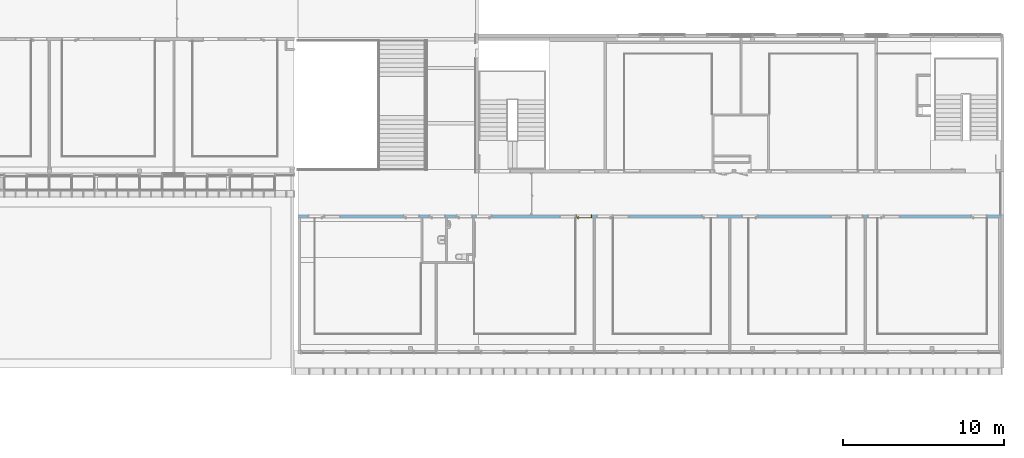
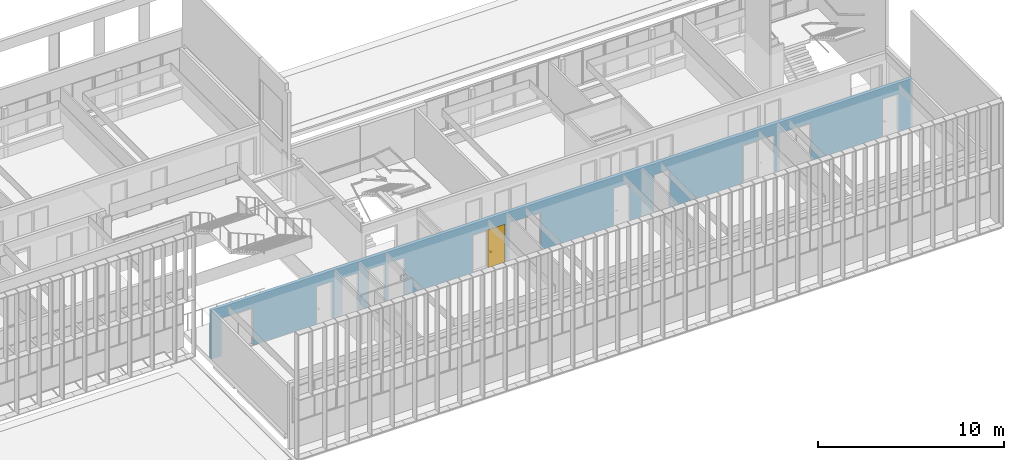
# One storey, part 72 of 106: 1 door, 18 openings, plus 1 element that does not belong to this part.
"""IFC2X3 building model written with IfcOpenShell, lengths in centimetres."""

from ifc_helpers import new_model, entity, si_unit, converted_unit, derived_unit, direction, frame, frame_2d, origin, place, context, subcontext, project, spatial, polyline, rectangle, extrude, clip, bounded_halfspace, faceted_brep, source, transform, mapped, material, material_list, layer, layer_set, layer_usage, type_object, type_shapes, element, fill, save


model = new_model("IFC2X3")

# Units and contexts
model_context = context("Model", 3, precision=0.001, world=origin(), true_north=direction((6.12303176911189e-17, 1.0)))
body_context = subcontext(model_context, "Body", "Model", "MODEL_VIEW")
ifc_project = project(units=[si_unit("LENGTHUNIT", "METRE", prefix="CENTI"), si_unit("AREAUNIT", "SQUARE_METRE"), si_unit("VOLUMEUNIT", "CUBIC_METRE"), converted_unit("PLANEANGLEUNIT", "DEGREE", entity("IfcRatioMeasure", 0.0174532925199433), si_unit("PLANEANGLEUNIT", "RADIAN"), dimensions=[0, 0, 0, 0, 0, 0, 0]), si_unit("MASSUNIT", "GRAM", prefix="KILO"), derived_unit("MASSDENSITYUNIT", [(si_unit("MASSUNIT", "GRAM", prefix="KILO"), 1), (si_unit("LENGTHUNIT", "METRE"), -3)]), si_unit("TIMEUNIT", "SECOND"), si_unit("FREQUENCYUNIT", "HERTZ"), si_unit("THERMODYNAMICTEMPERATUREUNIT", "DEGREE_CELSIUS"), derived_unit("THERMALTRANSMITTANCEUNIT", [(si_unit("MASSUNIT", "GRAM", prefix="KILO"), 1), (si_unit("THERMODYNAMICTEMPERATUREUNIT", "KELVIN"), -1), (si_unit("TIMEUNIT", "SECOND"), -3)]), derived_unit("VOLUMETRICFLOWRATEUNIT", [(si_unit("LENGTHUNIT", "METRE"), 3), (si_unit("TIMEUNIT", "SECOND"), -1)]), si_unit("ELECTRICCURRENTUNIT", "AMPERE"), si_unit("ELECTRICVOLTAGEUNIT", "VOLT"), si_unit("POWERUNIT", "WATT"), si_unit("FORCEUNIT", "NEWTON", prefix="KILO"), si_unit("ILLUMINANCEUNIT", "LUX"), si_unit("LUMINOUSFLUXUNIT", "LUMEN"), si_unit("LUMINOUSINTENSITYUNIT", "CANDELA"), derived_unit("USERDEFINED", [(si_unit("MASSUNIT", "GRAM", prefix="KILO"), -1), (si_unit("LENGTHUNIT", "METRE"), -2), (si_unit("TIMEUNIT", "SECOND"), 3), (si_unit("LUMINOUSFLUXUNIT", "LUMEN"), 1)]), derived_unit("LINEARVELOCITYUNIT", [(si_unit("LENGTHUNIT", "METRE"), 1), (si_unit("TIMEUNIT", "SECOND"), -1)]), si_unit("PRESSUREUNIT", "PASCAL"), derived_unit("USERDEFINED", [(si_unit("LENGTHUNIT", "METRE"), -2), (si_unit("MASSUNIT", "GRAM", prefix="KILO"), 1), (si_unit("TIMEUNIT", "SECOND"), -2)])], contexts=[model_context])

# Site, building, storey
site_placement = place(None, frame((-2781.94577612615, 7442.24238424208, 0.0)))
site = spatial("IfcSite", under=ifc_project, at=site_placement, Name="Default", CompositionType="ELEMENT")
building_placement = place(site_placement, origin())
building = spatial("IfcBuilding", under=site, at=building_placement, CompositionType="ELEMENT")
storey_placement = place(building_placement, frame((0.0, 0.0, 422.0)))
storey = spatial("IfcBuildingStorey", under=building, at=storey_placement, Name="Toiture - Cuisine", CompositionType="ELEMENT", Elevation=421.999999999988)

# Wall, openings, door
ifc_material_1 = material(Name="01 - Maçonnerie")
ifc_layer = layer(ifc_material_1, 20.0)
ifc_layer_set = layer_set([ifc_layer], Name="Mur de base:04 - Structure - béton - 20cm")
ifc_layer_usage = layer_usage(ifc_layer_set, "AXIS2", "NEGATIVE", 10.0)
wall_type = type_object("IfcWallType", Name="Mur de base:04 - Structure - béton - 20cm", PredefinedType="STANDARD", material=ifc_layer_set)
wall_placement = place(building_placement, frame((-4767.99987760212, -2200.15656731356, 422.0)))
wall = element("IfcWallStandardCase", 1, at=wall_placement, inside=storey, type_object=wall_type, material=ifc_layer_usage, Name="Mur de base:04 - Structure - béton - 20cm", ObjectType="Mur de base:04 - Structure - béton - 20cm", context=body_context, shape_type="Clipping", body=[
    clip(extrude(rectangle(XDim=4357.99999476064, YDim=19.9999999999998, at=frame_2d((2178.99999738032, -6.30606677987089e-14), x_axis=(-1.0, 0.0))), origin(), (0.0, 0.0, 1.0), 321.0), bounded_halfspace(frame((0.0, 10.0, 321.0), z_axis=(0.0, 0.0, -1.0), x_axis=(0.0, 1.0, 0.0)), True, frame((0.0, 10.0, 321.0)), polyline([(0.0, 0.0), (0.0, -20.0), (15.2999999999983, -20.0), (103.799999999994, -20.0), (105.799999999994, -20.0), (763.799999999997, -20.0), (773.799999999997, -20.0), (915.699994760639, -20.0), (925.699994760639, -20.0), (1082.69999476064, -20.0), (1092.69999476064, -20.0), (1720.69999476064, -20.0), (1722.69999476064, -20.0), (1832.69999476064, -20.0), (1842.69999476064, -20.0), (1952.69999476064, -20.0), (1954.69999476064, -20.0), (2560.69999476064, -20.0), (2562.69999476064, -20.0), (2672.69999476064, -20.0), (2682.69999476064, -20.0), (2792.69999476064, -20.0), (2794.69999476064, -20.0), (3400.69999476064, -20.0), (3402.69999476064, -20.0), (3512.69999476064, -20.0), (3522.69999476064, -20.0), (3592.69999476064, -20.0), (3594.69999476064, -20.0), (4270.69999476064, -20.0), (4272.69999476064, -20.0), (4342.69999476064, -20.0), (4358.0, -20.0), (4358.0, 0.0), (4356.0, 0.0), (1451.49999791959, 0.0), (1441.49999791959, 0.0), (1120.0, 0.0), (0.0, 0.0)]))),
])
opening_1_placement = place(wall_placement, origin())
element("IfcOpeningElement", 2, at=opening_1_placement, cuts=wall, Name="Mur de base:04 - Structure - béton - 20cm", ObjectType="Opening", context=body_context, shape_type="SweptSolid", body=[
    extrude(rectangle(XDim=270.0, YDim=20.0, at=frame_2d((0.0, 4.2632564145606e-14), x_axis=(0.0, 1.0))), frame((4368.0, 10.0, 135.0), z_axis=(0.0, 1.0, 0.0), x_axis=(1.0, 0.0, 0.0)), (0.0, 0.0, 1.0), 260.077533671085),
])
opening_2_placement = place(wall_placement, frame((4272.69999476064, 10.0, 0.0)))
element("IfcOpeningElement", 3, at=opening_2_placement, cuts=wall, Name="Int. Simple:PV (0.93m x 2.50m):1", ObjectType="Opening", context=body_context, shape_type="SweptSolid", body=[
    extrude(rectangle(XDim=248.500000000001, YDim=99.9999999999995, at=frame_2d((124.250000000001, 50.0), x_axis=(1.0, 0.0))), frame((0.0, 0.0, 0.0), z_axis=(0.0, -1.0, 0.0), x_axis=(0.0, 0.0, 1.0)), (0.0, 0.0, 1.0), 20.0),
])
opening_3_placement = place(wall_placement, frame((3632.69999476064, 10.0, 0.0)))
element("IfcOpeningElement", 4, at=opening_3_placement, cuts=wall, Name="Int. Simple:PV (0.93m x 2.50m):1", ObjectType="Opening", context=body_context, shape_type="SweptSolid", body=[
    extrude(rectangle(XDim=248.500000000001, YDim=99.9999999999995, at=frame_2d((124.250000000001, 49.9999999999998), x_axis=(1.0, 0.0))), frame((0.0, 0.0, 0.0), z_axis=(0.0, -1.0, 0.0), x_axis=(0.0, 0.0, 1.0)), (0.0, 0.0, 1.0), 20.0),
])
opening_4_placement = place(wall_placement, frame((3502.69999476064, 10.0, 0.0)))
element("IfcOpeningElement", 5, at=opening_4_placement, cuts=wall, Name="Int. Simple:PV (0.93m x 2.50m):1", ObjectType="Opening", context=body_context, shape_type="SweptSolid", body=[
    extrude(rectangle(XDim=248.500000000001, YDim=99.9999999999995, at=frame_2d((124.250000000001, 49.9999999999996), x_axis=(1.0, 0.0))), frame((0.0, 0.0, 0.0), z_axis=(0.0, -1.0, 0.0), x_axis=(0.0, 0.0, 1.0)), (0.0, 0.0, 1.0), 20.0),
])
opening_5_placement = place(wall_placement, frame((2852.69999476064, 10.0, 0.0)))
element("IfcOpeningElement", 6, at=opening_5_placement, cuts=wall, Name="Int. Simple:PV (0.93m x 2.50m):1", ObjectType="Opening", context=body_context, shape_type="SweptSolid", body=[
    extrude(rectangle(XDim=248.500000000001, YDim=99.9999999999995, at=frame_2d((124.250000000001, 49.9999999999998), x_axis=(1.0, 0.0))), frame((0.0, 0.0, 0.0), z_axis=(0.0, -1.0, 0.0), x_axis=(0.0, 0.0, 1.0)), (0.0, 0.0, 1.0), 20.0),
])
opening_6_placement = place(wall_placement, frame((2602.69999476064, 10.0, 0.0)))
element("IfcOpeningElement", 7, at=opening_6_placement, cuts=wall, Name="Int. Simple:PV (0.93m x 2.50m):1", ObjectType="Opening", context=body_context, shape_type="SweptSolid", body=[
    extrude(rectangle(XDim=248.500000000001, YDim=99.9999999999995, at=frame_2d((124.250000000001, 49.9999999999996), x_axis=(1.0, 0.0))), frame((0.0, 0.0, 0.0), z_axis=(0.0, -1.0, 0.0), x_axis=(0.0, 0.0, 1.0)), (0.0, 0.0, 1.0), 20.0),
])
opening_7_placement = place(wall_placement, frame((1952.69999476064, 10.0, 0.0)))
element("IfcOpeningElement", 8, at=opening_7_placement, cuts=wall, Name="Int. Simple:PV (0.93m x 2.50m):1", ObjectType="Opening", context=body_context, shape_type="SweptSolid", body=[
    extrude(rectangle(XDim=248.500000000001, YDim=99.9999999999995, at=frame_2d((124.250000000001, 49.9999999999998), x_axis=(1.0, 0.0))), frame((0.0, 0.0, 0.0), z_axis=(0.0, -1.0, 0.0), x_axis=(0.0, 0.0, 1.0)), (0.0, 0.0, 1.0), 20.0),
])
opening_8_placement = place(wall_placement, frame((1822.69999476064, 10.0, 0.0)))
opening_8 = element("IfcOpeningElement", 9, at=opening_8_placement, cuts=wall, Name="Int. Simple:PV (0.93m x 2.50m):1", ObjectType="Opening", context=body_context, shape_type="SweptSolid", body=[
    extrude(rectangle(XDim=248.500000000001, YDim=99.9999999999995, at=frame_2d((124.250000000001, 49.9999999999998), x_axis=(1.0, 0.0))), frame((0.0, 0.0, 0.0), z_axis=(0.0, -1.0, 0.0), x_axis=(0.0, 0.0, 1.0)), (0.0, 0.0, 1.0), 20.0),
])
opening_9_placement = place(wall_placement, frame((1202.69999476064, 10.0, 0.0)))
element("IfcOpeningElement", 10, at=opening_9_placement, cuts=wall, Name="Int. Simple:PV (0.93m x 2.50m):1", ObjectType="Opening", context=body_context, shape_type="SweptSolid", body=[
    extrude(rectangle(XDim=248.500000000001, YDim=99.9999999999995, at=frame_2d((124.250000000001, 49.9999999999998), x_axis=(1.0, 0.0))), frame((0.0, 0.0, 0.0), z_axis=(0.0, -1.0, 0.0), x_axis=(0.0, 0.0, 1.0)), (0.0, 0.0, 1.0), 20.0),
])
opening_10_placement = place(wall_placement, frame((1081.19999476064, 10.0, 0.0)))
element("IfcOpeningElement", 11, at=opening_10_placement, cuts=wall, Name="Int. Simple:PP simple (0.93m x 2.50m):1", ObjectType="Opening", context=body_context, shape_type="SweptSolid", body=[
    extrude(rectangle(XDim=248.500000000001, YDim=99.9999999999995, at=frame_2d((124.250000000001, 49.9999999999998), x_axis=(1.0, 0.0))), frame((0.0, 0.0, 0.0), z_axis=(0.0, -1.0, 0.0), x_axis=(0.0, 0.0, 1.0)), (0.0, 0.0, 1.0), 20.0),
])
opening_11_placement = place(wall_placement, frame((753.799999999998, 10.0, 0.0)))
element("IfcOpeningElement", 12, at=opening_11_placement, cuts=wall, Name="Int. Simple:PV (0.93m x 2.50m):1", ObjectType="Opening", context=body_context, shape_type="SweptSolid", body=[
    extrude(rectangle(XDim=248.500000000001, YDim=99.9999999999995, at=frame_2d((124.250000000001, 50.0), x_axis=(1.0, 0.0))), frame((0.0, 0.0, 0.0), z_axis=(0.0, -1.0, 0.0), x_axis=(0.0, 0.0, 1.0)), (0.0, 0.0, 1.0), 20.0),
])
opening_12_placement = place(wall_placement, frame((163.799999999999, 10.0, 0.0)))
element("IfcOpeningElement", 13, at=opening_12_placement, cuts=wall, Name="Int. Simple:PV (0.93m x 2.50m):1", ObjectType="Opening", context=body_context, shape_type="SweptSolid", body=[
    extrude(rectangle(XDim=248.500000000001, YDim=99.9999999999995, at=frame_2d((124.250000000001, 49.9999999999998), x_axis=(1.0, 0.0))), frame((0.0, 0.0, 0.0), z_axis=(0.0, -1.0, 0.0), x_axis=(0.0, 0.0, 1.0)), (0.0, 0.0, 1.0), 20.0),
])
opening_13_placement = place(wall_placement, frame((263.799999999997, 10.0, 0.0)))
element("IfcOpeningElement", 14, at=opening_13_placement, cuts=wall, Name="châssis intérieur vitré:châssis intérieur vitré (h=270) R+1:1", ObjectType="Opening", context=body_context, shape_type="SweptSolid", body=[
    extrude(rectangle(XDim=250.0, YDim=99.9999999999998, at=frame_2d((125.0, 49.9999999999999), x_axis=(1.0, 0.0))), frame((0.0, 0.0, 0.0), z_axis=(0.0, -1.0, 0.0), x_axis=(0.0, 0.0, 1.0)), (0.0, 0.0, 1.0), 20.0),
])
opening_14_placement = place(wall_placement, frame((1722.69999476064, 10.0, 0.0)))
element("IfcOpeningElement", 15, at=opening_14_placement, cuts=wall, Name="châssis intérieur vitré:châssis intérieur vitré (h=270) R+1:1", ObjectType="Opening", context=body_context, shape_type="SweptSolid", body=[
    extrude(rectangle(XDim=250.0, YDim=99.9999999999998, at=frame_2d((125.0, 49.9999999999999), x_axis=(1.0, 0.0))), frame((0.0, 0.0, 0.0), z_axis=(0.0, -1.0, 0.0), x_axis=(0.0, 0.0, 1.0)), (0.0, 0.0, 1.0), 20.0),
])
opening_15_placement = place(wall_placement, frame((2052.69999476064, 10.0, 0.0)))
element("IfcOpeningElement", 16, at=opening_15_placement, cuts=wall, Name="châssis intérieur vitré:châssis intérieur vitré (h=270) R+1:1", ObjectType="Opening", context=body_context, shape_type="SweptSolid", body=[
    extrude(rectangle(XDim=250.0, YDim=99.9999999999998, at=frame_2d((125.0, 49.9999999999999), x_axis=(1.0, 0.0))), frame((0.0, 0.0, 0.0), z_axis=(0.0, -1.0, 0.0), x_axis=(0.0, 0.0, 1.0)), (0.0, 0.0, 1.0), 20.0),
])
opening_16_placement = place(wall_placement, frame((3402.69999476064, 10.0, 0.0)))
element("IfcOpeningElement", 17, at=opening_16_placement, cuts=wall, Name="châssis intérieur vitré:châssis intérieur vitré (h=270) R+1:1", ObjectType="Opening", context=body_context, shape_type="SweptSolid", body=[
    extrude(rectangle(XDim=250.0, YDim=99.9999999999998, at=frame_2d((125.0, 49.9999999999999), x_axis=(1.0, 0.0))), frame((0.0, 0.0, 0.0), z_axis=(0.0, -1.0, 0.0), x_axis=(0.0, 0.0, 1.0)), (0.0, 0.0, 1.0), 20.0),
])
opening_17_placement = place(wall_placement, frame((3732.69999476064, 10.0, 0.0)))
element("IfcOpeningElement", 18, at=opening_17_placement, cuts=wall, Name="châssis intérieur vitré:châssis intérieur vitré (h=270) R+1:1", ObjectType="Opening", context=body_context, shape_type="SweptSolid", body=[
    extrude(rectangle(XDim=250.0, YDim=99.9999999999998, at=frame_2d((125.0, 49.9999999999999), x_axis=(1.0, 0.0))), frame((0.0, 0.0, 0.0), z_axis=(0.0, -1.0, 0.0), x_axis=(0.0, 0.0, 1.0)), (0.0, 0.0, 1.0), 20.0),
])
opening_18_placement = place(wall_placement, frame((914.199994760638, 10.0, 0.0)))
element("IfcOpeningElement", 19, at=opening_18_placement, cuts=wall, Name="Int. Simple:PP simple (0.93m x 2.50m):1", ObjectType="Opening", context=body_context, shape_type="SweptSolid", body=[
    extrude(rectangle(XDim=248.500000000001, YDim=99.9999999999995, at=frame_2d((124.250000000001, 50.0), x_axis=(1.0, 0.0))), frame((0.0, 0.0, 0.0), z_axis=(0.0, -1.0, 0.0), x_axis=(0.0, 0.0, 1.0)), (0.0, 0.0, 1.0), 20.0),
])
ifc_material_2 = material(Name="Finition Peinture - Blanc satiné")
ifc_material_3 = material(Name="Bois - Panneau de porte")
ifc_material_4 = material(Name="Bois - Cadre de porte")
ifc_material_list_1 = material_list([ifc_material_2, ifc_material_3, ifc_material_4])
ifc_material_list_2 = material_list([ifc_material_2, ifc_material_3, ifc_material_4])
door_style = type_object("IfcDoorStyle", Name="PV (0.93m x 2.50m)", ConstructionType="NOTDEFINED", OperationType="SINGLE_SWING_LEFT", ParameterTakesPrecedence=False, Sizeable=False, material=ifc_material_list_2)
shared_shape = source(origin(), body_context, "Body", "Brep", [
    faceted_brep([(10.5352761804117, -0.500000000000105, 86.6003983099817), (11.5000000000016, -0.500000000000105, 87.0), (11.5000000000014, -0.500000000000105, 108.0), (10.5352761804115, -0.500000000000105, 108.399601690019), (9.50000000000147, -0.500000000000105, 108.535898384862), (8.46472381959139, -0.500000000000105, 108.399601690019), (7.50000000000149, -0.500000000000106, 108.0), (7.50000000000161, -0.500000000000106, 87.0), (8.46472381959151, -0.500000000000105, 86.6003983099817), (9.50000000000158, -0.500000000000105, 86.464101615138), (10.5352761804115, 0.0, 108.399601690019), (11.5000000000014, 0.0, 108.0), (11.5000000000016, 0.0, 87.0), (10.5352761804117, 0.0, 86.6003983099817), (9.50000000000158, 0.0, 86.464101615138), (8.46472381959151, 0.0, 86.6003983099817), (7.50000000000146, 0.0, 87.0), (7.50000000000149, 0.0, 108.0), (8.46472381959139, 0.0, 108.399601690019), (9.50000000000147, 0.0, 108.535898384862)], [[[0, 1, 2, 3, 4, 5, 6, 7, 8, 9]], [[10, 11, 12, 13, 14, 15, 16, 17, 18, 19]], [[16, 15, 8, 7]], [[8, 15, 14, 9]], [[14, 13, 0, 9]], [[13, 12, 1, 0]], [[2, 1, 12, 11]], [[11, 10, 3, 2]], [[3, 10, 19, 4]], [[19, 18, 5, 4]], [[18, 17, 6, 5]], [[7, 6, 17, 16]]]),
    faceted_brep([(10.5352761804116, 4.0, 86.6003983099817), (11.5000000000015, 4.0, 87.0), (11.5000000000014, 4.0, 108.0), (10.5352761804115, 4.0, 108.399601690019), (9.50000000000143, 4.0, 108.535898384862), (8.46472381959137, 4.0, 108.399601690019), (7.50000000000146, 4.0, 108.0), (7.50000000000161, 4.0, 87.0), (8.46472381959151, 4.0, 86.6003983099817), (9.50000000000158, 4.0, 86.464101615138), (10.5352761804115, 4.49999999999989, 108.399601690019), (11.5000000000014, 4.49999999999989, 108.0), (11.5000000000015, 4.49999999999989, 87.0), (10.5352761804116, 4.49999999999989, 86.6003983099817), (9.50000000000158, 4.49999999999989, 86.464101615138), (8.46472381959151, 4.49999999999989, 86.6003983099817), (7.50000000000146, 4.49999999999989, 87.0), (7.50000000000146, 4.49999999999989, 108.0), (8.46472381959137, 4.49999999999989, 108.399601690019), (9.50000000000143, 4.49999999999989, 108.535898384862)], [[[0, 1, 2, 3, 4, 5, 6, 7, 8, 9]], [[10, 11, 12, 13, 14, 15, 16, 17, 18, 19]], [[11, 10, 3, 2]], [[3, 10, 19, 4]], [[19, 18, 5, 4]], [[18, 17, 6, 5]], [[7, 6, 17, 16]], [[16, 15, 8, 7]], [[8, 15, 14, 9]], [[14, 13, 0, 9]], [[13, 12, 1, 0]], [[2, 1, 12, 11]]]),
    faceted_brep([(9.29747013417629, -0.500000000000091, 100.778044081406), (9.70252986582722, -0.500000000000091, 100.778044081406), (10.1000000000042, -0.500000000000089, 100.699999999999), (10.1000000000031, -0.500000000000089, 99.3000000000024), (9.7025298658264, -0.500000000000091, 99.2219559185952), (9.29747013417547, -0.500000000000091, 99.221955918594), (8.8999999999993, -0.500000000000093, 99.2999999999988), (8.89999999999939, -0.500000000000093, 100.7), (8.89999999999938, -3.26509507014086, 100.7), (9.29747013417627, -3.10045754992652, 100.778044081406), (10.9023585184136, -4.70534593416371, 100.778044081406), (11.0701397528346, -4.30028620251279, 100.778044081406), (9.7025298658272, -2.93267631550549, 100.778044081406), (10.1000000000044, -2.76803879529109, 100.7), (10.1000000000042, -2.76803879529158, 99.3000000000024), (9.7025298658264, -2.93267631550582, 99.2219559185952), (11.0701397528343, -4.30028620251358, 99.2219559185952), (10.9023585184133, -4.70534593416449, 99.221955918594), (9.29747013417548, -3.10045754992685, 99.221955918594), (8.89999999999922, -3.26509507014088, 99.2999999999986), (10.7377209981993, -5.10281606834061, 100.7), (11.2347772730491, -3.90281606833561, 100.7), (11.2347772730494, -3.90281606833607, 99.3000000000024), (10.7377209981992, -5.10281606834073, 99.2999999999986), (19.5018640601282, -5.1028160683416, 99.2999999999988), (19.5018640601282, -4.70534593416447, 99.221955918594), (19.5018640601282, -4.30028620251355, 99.2219559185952), (19.5018640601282, -3.90281606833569, 99.3000000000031), (19.5018640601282, -3.90281606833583, 100.7), (19.5018640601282, -4.30028620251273, 100.778044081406), (19.5018640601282, -4.70534593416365, 100.778044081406), (19.5018640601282, -5.10281606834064, 100.699999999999), (14.7307697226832, -5.10281606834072, 100.7), (15.2860019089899, -4.5028160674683, 100.78786867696), (15.3683206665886, -3.9028160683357, 100.7), (15.3683206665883, -3.90281606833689, 99.3000000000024), (15.2860018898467, -4.50281607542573, 99.2121313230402), (14.7307700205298, -5.10281606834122, 99.2999999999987)], [[[0, 1, 2, 3, 4, 5, 6, 7]], [[8, 9, 0, 7]], [[9, 10, 11, 12, 1, 0]], [[12, 13, 2, 1]], [[3, 2, 13, 14]], [[14, 15, 4, 3]], [[15, 16, 17, 18, 5, 4]], [[18, 19, 6, 5]], [[7, 6, 19, 8]], [[20, 10, 9, 8]], [[11, 21, 13, 12]], [[14, 13, 21, 22]], [[22, 16, 15, 14]], [[17, 23, 19, 18]], [[8, 19, 23, 20]], [[24, 25, 26, 27, 28, 29, 30, 31]], [[32, 30, 33]], [[31, 30, 32]], [[10, 20, 32]], [[33, 34, 11]], [[21, 11, 34]], [[34, 29, 28]], [[30, 29, 33]], [[29, 34, 33]], [[10, 32, 33]], [[10, 33, 11]], [[22, 21, 34, 28, 27, 35]], [[35, 26, 36]], [[37, 36, 25]], [[22, 35, 16]], [[35, 27, 26]], [[24, 37, 25]], [[23, 17, 37]], [[37, 17, 36]], [[17, 16, 36]], [[16, 35, 36]], [[25, 36, 26]], [[20, 23, 37, 24, 31, 32]]]),
    faceted_brep([(9.29747013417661, 4.49999999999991, 100.778044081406), (8.89999999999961, 4.4999999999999, 100.7), (8.89999999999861, 4.4999999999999, 99.2999999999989), (9.29747013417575, 4.49999999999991, 99.221955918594), (9.70252986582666, 4.49999999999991, 99.2219559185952), (10.1000000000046, 4.49999999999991, 99.3000000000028), (10.1000000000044, 4.49999999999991, 100.7), (9.70252986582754, 4.49999999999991, 100.778044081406), (10.1000000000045, 6.7485204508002, 99.3000000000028), (10.1000000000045, 6.74852045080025, 100.7), (9.70252986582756, 6.91315797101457, 100.778044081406), (11.083890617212, 8.29451872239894, 100.778044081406), (10.916109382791, 8.69957845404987, 100.778044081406), (9.29747013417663, 7.0809392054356, 100.778044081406), (8.89999999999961, 7.24557672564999, 100.7), (8.89999999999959, 7.2455767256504, 99.2999999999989), (9.29747013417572, 7.08093920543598, 99.221955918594), (10.9161093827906, 8.69957845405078, 99.221955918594), (11.0838906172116, 8.29451872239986, 99.2219559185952), (9.70252986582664, 6.91315797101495, 99.2219559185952), (11.2485281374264, 7.89704858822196, 99.3000000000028), (11.2485281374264, 7.89704858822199, 100.7), (10.7514718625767, 9.09704858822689, 100.7), (10.7514718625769, 9.0970485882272, 99.2999999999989), (19.5045783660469, 7.89704858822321, 99.3000000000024), (19.5045783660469, 8.29451872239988, 99.2219559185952), (19.5045783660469, 8.6995784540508, 99.221955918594), (19.5045783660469, 9.09704858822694, 99.2999999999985), (19.5045783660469, 9.09704858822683, 100.7), (19.5045783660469, 8.69957845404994, 100.778044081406), (19.5045783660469, 8.29451872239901, 100.778044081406), (19.5045783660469, 7.89704858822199, 100.7), (15.3765520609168, 7.89704858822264, 99.3000000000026), (15.3765532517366, 7.89704858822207, 100.7), (15.294234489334, 8.49704858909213, 100.78786867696), (14.7445205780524, 9.09704858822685, 100.7), (14.7445204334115, 9.09704858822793, 99.2999999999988), (15.2942345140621, 8.49704858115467, 99.2121313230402)], [[[0, 1, 2, 3, 4, 5, 6, 7]], [[6, 5, 8, 9]], [[9, 10, 7, 6]], [[10, 11, 12, 13, 0, 7]], [[13, 14, 1, 0]], [[2, 1, 14, 15]], [[15, 16, 3, 2]], [[16, 17, 18, 19, 4, 3]], [[19, 8, 5, 4]], [[9, 8, 20, 21]], [[21, 11, 10, 9]], [[12, 22, 14, 13]], [[15, 14, 22, 23]], [[23, 17, 16, 15]], [[18, 20, 8, 19]], [[24, 25, 26, 27, 28, 29, 30, 31]], [[21, 20, 32, 24, 31, 33]], [[33, 30, 34]], [[35, 34, 29]], [[21, 33, 11]], [[33, 31, 30]], [[28, 35, 29]], [[22, 12, 35]], [[35, 12, 34]], [[12, 11, 34]], [[11, 33, 34]], [[29, 34, 30]], [[22, 35, 28, 27, 36, 23]], [[36, 26, 37]], [[27, 26, 36]], [[17, 23, 36]], [[37, 32, 18]], [[20, 18, 32]], [[32, 25, 24]], [[26, 25, 37]], [[25, 32, 37]], [[17, 36, 37]], [[17, 37, 18]]]),
    faceted_brep([(3.50000000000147, 4.0, 245.0), (96.5000000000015, 4.0, 245.0), (96.5000000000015, 4.0, 0.0), (3.50000000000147, 4.0, 0.0), (3.50000000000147, 0.0, 245.0), (3.50000000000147, 0.0, 0.0), (96.5000000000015, 0.0, 0.0), (96.5000000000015, 0.0, 245.0)], [[[0, 1, 2, 3]], [[4, 5, 6, 7]], [[1, 0, 4, 7]], [[2, 1, 7, 6]], [[3, 2, 6, 5]], [[0, 3, 5, 4]]]),
    faceted_brep([(0.0, 20.0, 0.0), (-1.50000000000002, 20.0, 0.0), (-1.50000000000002, 20.5000000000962, 0.0), (5.0, 20.5000000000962, 0.0), (5.0, 4.0, 0.0), (3.50000000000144, 4.0, 0.0), (3.50000000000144, -0.500000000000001, 0.0), (-1.50000000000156, -0.500000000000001, 0.0), (-1.50000000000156, 0.0, 0.0), (0.0, 0.0, 0.0), (0.0, 20.0, 248.500000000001), (100.0, 20.0, 248.500000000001), (100.0, 20.0, 0.0), (101.5, 20.0, 0.0), (101.5, 20.0, 250.0), (-1.50000000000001, 20.0, 250.0), (-1.50000000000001, 20.5000000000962, 250.0), (101.5, 20.5000000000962, 250.0), (101.5, 20.5000000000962, 0.0), (95.0, 20.5000000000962, 0.0), (95.0, 20.5000000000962, 243.5), (5.0, 20.5000000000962, 243.5), (5.0, 4.0, 243.5), (95.0, 4.0, 243.5), (95.0, 4.0, 0.0), (96.499999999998, 4.0, 0.0), (96.499999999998, 4.0, 245.0), (3.50000000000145, 4.0, 245.0), (3.50000000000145, -0.500000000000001, 245.0), (96.499999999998, -0.500000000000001, 245.0), (96.499999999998, -0.500000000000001, 0.0), (101.500000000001, -0.500000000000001, 0.0), (101.500000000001, -0.500000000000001, 250.0), (-1.50000000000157, -0.500000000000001, 250.0), (-1.50000000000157, 0.0, 250.0), (101.500000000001, 0.0, 250.0), (101.500000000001, 0.0, 0.0), (100.0, 0.0, 0.0), (100.0, 0.0, 248.500000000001), (0.0, 0.0, 248.500000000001)], [[[0, 1, 2, 3, 4, 5, 6, 7, 8, 9]], [[1, 0, 10, 11, 12, 13, 14, 15]], [[2, 1, 15, 16]], [[3, 2, 16, 17, 18, 19, 20, 21]], [[3, 21, 22, 4]], [[5, 4, 22, 23, 24, 25, 26, 27]], [[5, 27, 28, 6]], [[7, 6, 28, 29, 30, 31, 32, 33]], [[8, 7, 33, 34]], [[9, 8, 34, 35, 36, 37, 38, 39]], [[0, 9, 39, 10]], [[11, 38, 37, 12]], [[12, 37, 36, 31, 30, 25, 24, 19, 18, 13]], [[17, 14, 13, 18]], [[23, 20, 19, 24]], [[29, 26, 25, 30]], [[35, 32, 31, 36]], [[16, 15, 14, 17]], [[22, 21, 20, 23]], [[28, 27, 26, 29]], [[34, 33, 32, 35]], [[10, 39, 38, 11]]]),
])
type_shapes(door_style, [shared_shape])
door_placement = place(opening_8_placement, frame((-100.0, -20.0, 0.0)))
door = element("IfcDoor", 20, at=door_placement, inside=storey, type_object=door_style, material=ifc_material_list_1, Name="Int. Simple:PV (0.93m x 2.50m)", ObjectType="Int. Simple:PV (0.93m x 2.50m)", OverallHeight=248.500000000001, OverallWidth=99.9999999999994, context=body_context, shape_type="MappedRepresentation", body=[
    mapped(shared_shape, transform((0.0, 0.0, 0.0), scale=1.0)),
])
fill(opening_8, door)

save(model, "model.ifc")
